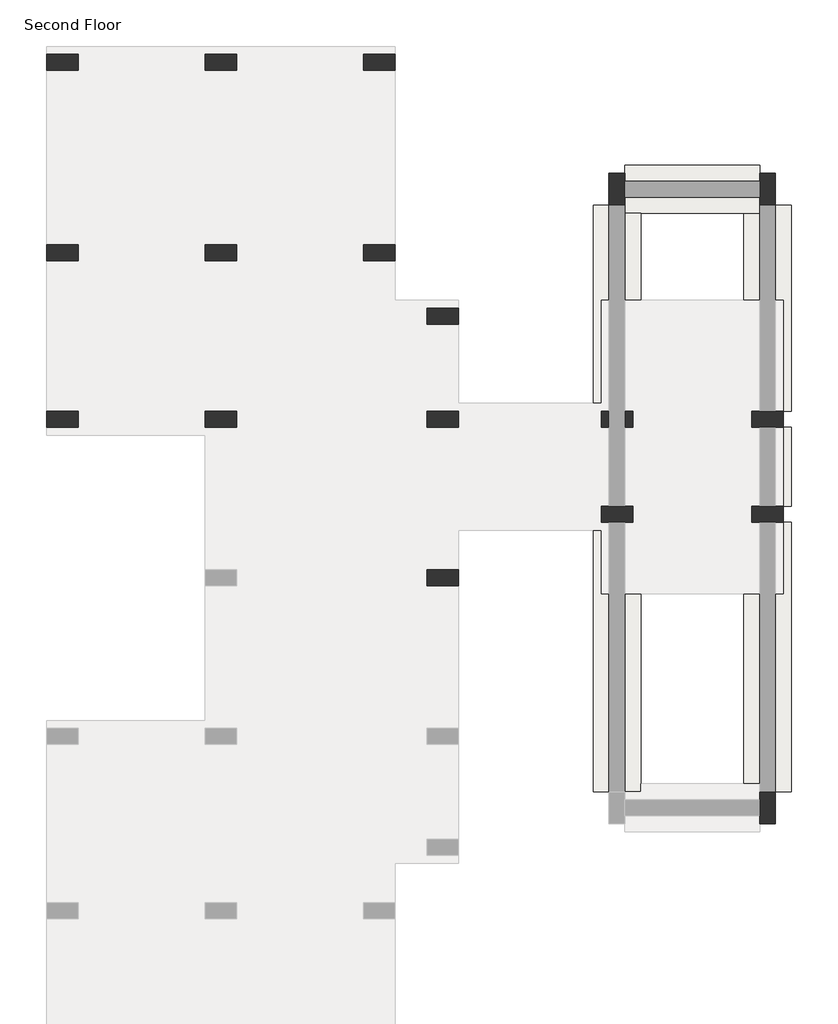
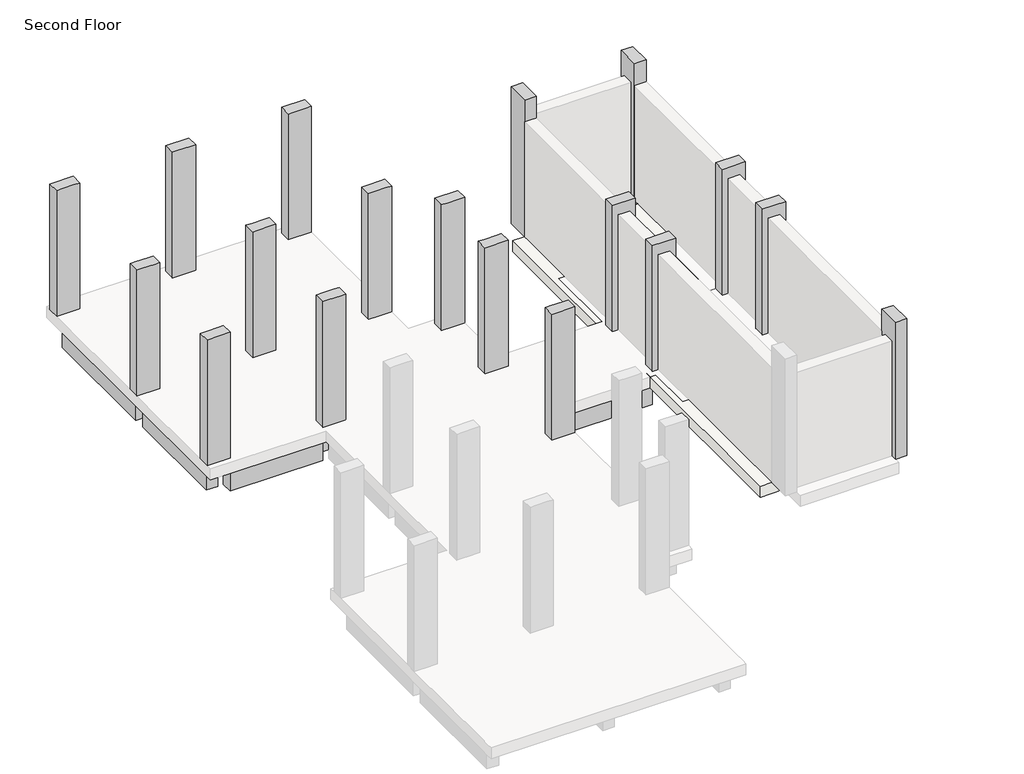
# One storey, part 2 of 2: 20 beams, 18 columns, 6 footings.
"""IFC4 building model written with IfcOpenShell, lengths in millimetres."""

from ifc_helpers import new_model, si_unit, frame, origin, place, context, project, spatial, polyline, outline, extrude, faceted_brep, element, save

model = new_model("IFC4")

# Units and contexts
model_context = context("Model", 3, world=origin())
ifc_project = project(units=[si_unit("LENGTHUNIT", "METRE", prefix="MILLI")], contexts=[model_context])

# Site, building, storey
site = spatial("IfcSite", under=ifc_project)
building = spatial("IfcBuilding", under=site)
storey = spatial("IfcBuildingStorey", under=building, Name="Second Floor", Elevation=3810.0)

# Beams
placement = place(None, origin())
element("IfcBeam", 1, ObjectType="Concrete-Rectangular Beam : 12 x 24", at=placement, inside=storey, context=model_context, shape_type="SweptSolid", body=[
    extrude(outline(polyline([(-12861.5073204, 23464.2572372), (-12861.5073204, 23769.0572372), (-10423.1073204, 23769.0572372), (-10423.1073204, 23464.2572372), (-12861.5073204, 23464.2572372)])), frame((0.0, 0.0, 2895.6), z_axis=(0.0, 0.0, 1.0), x_axis=(1.0, 0.0, 0.0)), (0.0, 0.0, 1.0), 609.6),
])
element("IfcBeam", 2, ObjectType="Concrete-Rectangular Beam : 12 x 24", at=placement, inside=storey, context=model_context, shape_type="SweptSolid", body=[
    extrude(outline(polyline([(-9813.5073204, 23464.2572372), (-9813.5073204, 23769.0572372), (-7375.1073204, 23769.0572372), (-7375.1073204, 23464.2572372), (-9813.5073204, 23464.2572372)])), frame((0.0, 0.0, 2895.6), z_axis=(0.0, 0.0, 1.0), x_axis=(1.0, 0.0, 0.0)), (0.0, 0.0, 1.0), 609.6),
])
element("IfcBeam", 3, ObjectType="Concrete-Rectangular Beam : 12 x 24", at=placement, inside=storey, context=model_context, shape_type="SweptSolid", body=[
    extrude(outline(polyline([(-7222.7073204, 23464.2572372), (-6917.9073204, 23464.2572372), (-6917.9073204, 20111.4572372), (-7222.7073204, 20111.4572372), (-7222.7073204, 23464.2572372)])), frame((0.0, 0.0, 2895.6), z_axis=(0.0, 0.0, 1.0), x_axis=(1.0, 0.0, 0.0)), (0.0, 0.0, 1.0), 609.6),
])
element("IfcBeam", 4, ObjectType="Concrete-Rectangular Beam : 12 x 24", at=placement, inside=storey, context=model_context, shape_type="SweptSolid", body=[
    extrude(outline(polyline([(-10270.7073204, 23464.2572372), (-9965.9073204, 23464.2572372), (-9965.9073204, 20111.4572372), (-10270.7073204, 20111.4572372), (-10270.7073204, 23464.2572372)])), frame((0.0, 0.0, 2895.6), z_axis=(0.0, 0.0, 1.0), x_axis=(1.0, 0.0, 0.0)), (0.0, 0.0, 1.0), 609.6),
])
element("IfcBeam", 5, ObjectType="Concrete-Rectangular Beam : 12 x 24", at=placement, inside=storey, context=model_context, shape_type="SweptSolid", body=[
    extrude(outline(polyline([(-13318.7073204, 23464.2572372), (-13013.9073204, 23464.2572372), (-13013.9073204, 20111.4572372), (-13318.7073204, 20111.4572372), (-13318.7073204, 23464.2572372)])), frame((0.0, 0.0, 2895.6), z_axis=(0.0, 0.0, 1.0), x_axis=(1.0, 0.0, 0.0)), (0.0, 0.0, 1.0), 609.6),
])
element("IfcBeam", 6, ObjectType="Concrete-Rectangular Beam : 12 x 24", at=placement, inside=storey, context=model_context, shape_type="SweptSolid", body=[
    extrude(outline(polyline([(-12861.5073204, 19806.6572372), (-12861.5073204, 20111.4572372), (-10423.1073204, 20111.4572372), (-10423.1073204, 19806.6572372), (-12861.5073204, 19806.6572372)])), frame((0.0, 0.0, 2895.6), z_axis=(0.0, 0.0, 1.0), x_axis=(1.0, 0.0, 0.0)), (0.0, 0.0, 1.0), 609.6),
])
element("IfcBeam", 7, ObjectType="Concrete-Rectangular Beam : 12 x 24", at=placement, inside=storey, context=model_context, shape_type="SweptSolid", body=[
    extrude(outline(polyline([(-9813.5073204, 19806.6572372), (-9813.5073204, 20111.4572372), (-7375.1073204, 20111.4572372), (-7375.1073204, 19806.6572372), (-9813.5073204, 19806.6572372)])), frame((0.0, 0.0, 2895.6), z_axis=(0.0, 0.0, 1.0), x_axis=(1.0, 0.0, 0.0)), (0.0, 0.0, 1.0), 609.6),
])
element("IfcBeam", 8, ObjectType="Concrete-Rectangular Beam : 12 x 24", at=placement, inside=storey, context=model_context, shape_type="SweptSolid", body=[
    extrude(outline(polyline([(-13318.7073204, 19806.6572372), (-13013.9073204, 19806.6572372), (-13013.9073204, 16911.0572372), (-13318.7073204, 16911.0572372), (-13318.7073204, 19806.6572372)])), frame((0.0, 0.0, 2895.6), z_axis=(0.0, 0.0, 1.0), x_axis=(1.0, 0.0, 0.0)), (0.0, 0.0, 1.0), 609.6),
])
element("IfcBeam", 9, ObjectType="Concrete-Rectangular Beam : 12 x 24", at=placement, inside=storey, context=model_context, shape_type="SweptSolid", body=[
    extrude(outline(polyline([(-10270.7073204, 19806.6572372), (-9965.9073204, 19806.6572372), (-9965.9073204, 16911.0572372), (-10270.7073204, 16911.0572372), (-10270.7073204, 19806.6572372)])), frame((0.0, 0.0, 2895.6), z_axis=(0.0, 0.0, 1.0), x_axis=(1.0, 0.0, 0.0)), (0.0, 0.0, 1.0), 609.6),
])
element("IfcBeam", 10, ObjectType="Concrete-Rectangular Beam : 12 x 24", at=placement, inside=storey, context=model_context, shape_type="Brep", body=[
    faceted_brep([(-6917.9073204, 19806.6572372, 3505.2), (-7222.7073204, 19806.6572372, 3505.2), (-7222.7073204, 18588.1999409, 3505.2), (-6917.9073204, 18588.1999409, 3505.2), (-6917.9073204, 18892.9999409, 3505.2), (-7222.7073204, 19806.6572372, 2895.6), (-7222.7073204, 18588.1999409, 2895.6), (-6917.9073204, 19806.6572372, 2895.6), (-6917.9073204, 18892.9999409, 2895.6), (-6917.9073204, 18588.1999409, 2895.6)], [[[0, 1, 2, 3, 4]], [[1, 5, 6, 2]], [[5, 7, 8, 9, 6]], [[3, 9, 8, 7, 0, 4]], [[0, 7, 5, 1]], [[3, 2, 6, 9]]]),
])
element("IfcBeam", 11, ObjectType="Concrete-Rectangular Beam : 12 x 24", at=placement, inside=storey, context=model_context, shape_type="SweptSolid", body=[
    extrude(outline(polyline([(-6917.9073204, 18588.1999409), (-6917.9073204, 18892.9999409), (-6156.6500241, 18892.9999409), (-6156.6500241, 18588.1999409), (-6917.9073204, 18588.1999409)])), frame((0.0, 0.0, 2895.6), z_axis=(0.0, 0.0, 1.0), x_axis=(1.0, 0.0, 0.0)), (0.0, 0.0, 1.0), 609.6),
])
element("IfcBeam", 12, ObjectType="Concrete-Rectangular Beam : 12 x 24", at=placement, inside=storey, context=model_context, shape_type="SweptSolid", body=[
    extrude(outline(polyline([(-6004.2500241, 18588.1999409), (-5699.4500241, 18588.1999409), (-5699.4500241, 16911.0572372), (-6004.2500241, 16911.0572372), (-6004.2500241, 18588.1999409)])), frame((0.0, 0.0, 2895.6), z_axis=(0.0, 0.0, 1.0), x_axis=(1.0, 0.0, 0.0)), (0.0, 0.0, 1.0), 609.6),
])
element("IfcBeam", 13, ObjectType="Concrete-Rectangular Beam : 12 x 24", at=placement, inside=storey, context=model_context, shape_type="SweptSolid", body=[
    extrude(outline(polyline([(-9813.5073204, 16606.2572372), (-9813.5073204, 16911.0572372), (-6156.6500241, 16911.0572372), (-6156.6500241, 16606.2572372), (-9813.5073204, 16606.2572372)])), frame((0.0, 0.0, 2895.6), z_axis=(0.0, 0.0, 1.0), x_axis=(1.0, 0.0, 0.0)), (0.0, 0.0, 1.0), 609.6),
])
element("IfcBeam", 14, ObjectType="Concrete-Rectangular Beam : 12 x 24", at=placement, inside=storey, context=model_context, shape_type="SweptSolid", body=[
    extrude(outline(polyline([(-12861.5073204, 16606.2572372), (-12861.5073204, 16911.0572372), (-10423.1073204, 16911.0572372), (-10423.1073204, 16606.2572372), (-12861.5073204, 16606.2572372)])), frame((0.0, 0.0, 2895.6), z_axis=(0.0, 0.0, 1.0), x_axis=(1.0, 0.0, 0.0)), (0.0, 0.0, 1.0), 609.6),
])
element("IfcBeam", 15, ObjectType="Concrete-Rectangular Beam : 12 x 24", at=placement, inside=storey, context=model_context, shape_type="SweptSolid", body=[
    extrude(outline(polyline([(-2803.8500241, 16911.0572372), (-2803.8500241, 16606.2572372), (-5547.0500241, 16606.2572372), (-5547.0500241, 16911.0572372), (-2803.8500241, 16911.0572372)])), frame((0.0, 0.0, 2895.6), z_axis=(0.0, 0.0, 1.0), x_axis=(1.0, 0.0, 0.0)), (0.0, 0.0, 1.0), 609.6),
])
element("IfcBeam", 16, ObjectType="Concrete-Rectangular Beam : 12 x 24", at=placement, inside=storey, context=model_context, shape_type="Brep", body=[
    faceted_brep([(-5699.4500241, 16606.2572372, 3505.2), (-6004.2500241, 16606.2572372, 3505.2), (-6004.2500241, 13863.0572372, 3505.2), (-5699.4500241, 13863.0572372, 3505.2), (-5699.4500241, 14777.4572372, 3505.2), (-5699.4500241, 15082.2572372, 3505.2), (-6004.2500241, 16606.2572372, 2895.6), (-6004.2500241, 13863.0572372, 2895.6), (-5699.4500241, 16606.2572372, 2895.6), (-5699.4500241, 15082.2572372, 2895.6), (-5699.4500241, 14777.4572372, 2895.6), (-5699.4500241, 13863.0572372, 2895.6)], [[[0, 1, 2, 3, 4, 5]], [[1, 6, 7, 2]], [[6, 8, 9, 10, 11, 7]], [[8, 0, 5, 4, 3, 11, 10, 9]], [[6, 1, 0, 8]], [[3, 2, 7, 11]]]),
])
element("IfcBeam", 17, ObjectType="Concrete-Rectangular Beam : 12 x 24", at=placement, inside=storey, context=model_context, shape_type="SweptSolid", body=[
    extrude(outline(polyline([(-2803.8500241, 15082.2572372), (-2803.8500241, 14777.4572372), (-5699.4500241, 14777.4572372), (-5699.4500241, 15082.2572372), (-2803.8500241, 15082.2572372)])), frame((0.0, 0.0, 2895.6), z_axis=(0.0, 0.0, 1.0), x_axis=(1.0, 0.0, 0.0)), (0.0, 0.0, 1.0), 609.6),
])
element("IfcBeam", 18, ObjectType="Concrete-Rectangular Beam : 12 x 24", at=placement, inside=storey, context=model_context, shape_type="SweptSolid", body=[
    extrude(outline(polyline([(-5699.4500241, 10815.0572372), (-6004.2500241, 10815.0572372), (-6004.2500241, 13558.2572372), (-5699.4500241, 13558.2572372), (-5699.4500241, 10815.0572372)])), frame((0.0, 0.0, 2895.6), z_axis=(0.0, 0.0, 1.0), x_axis=(1.0, 0.0, 0.0)), (0.0, 0.0, 1.0), 609.6),
])
element("IfcBeam", 19, ObjectType="Concrete-Rectangular Beam : 12 x 24", at=placement, inside=storey, context=model_context, shape_type="SweptSolid", body=[
    extrude(outline(polyline([(-2194.2500241, 16606.2572372), (-2194.2500241, 16911.0572372), (89.9860546, 16911.0572372), (89.9860546, 16606.2572372), (-2194.2500241, 16606.2572372)])), frame((0.0, 0.0, 2895.6), z_axis=(0.0, 0.0, 1.0), x_axis=(1.0, 0.0, 0.0)), (0.0, 0.0, 1.0), 609.6),
])
element("IfcBeam", 20, ObjectType="Concrete-Rectangular Beam : 12 x 24", at=placement, inside=storey, context=model_context, shape_type="SweptSolid", body=[
    extrude(outline(polyline([(89.9860546, 15082.2572372), (89.9860546, 14777.4572372), (-2194.2500241, 14777.4572372), (-2194.2500241, 15082.2572372), (89.9860546, 15082.2572372)])), frame((0.0, 0.0, 2895.6), z_axis=(0.0, 0.0, 1.0), x_axis=(1.0, 0.0, 0.0)), (0.0, 0.0, 1.0), 609.6),
])

# Columns
element("IfcColumn", 21, ObjectType="Concrete-Rectangular-Column : 12 x 24", at=placement, inside=storey, context=model_context, shape_type="Brep", body=[
    faceted_brep([(-13471.1073204, 23769.0572372, 3810.0), (-12861.5073204, 23769.0572372, 3810.0), (-12861.5073204, 23464.2572372, 3810.0), (-13471.1073204, 23464.2572372, 3810.0), (-13471.1073204, 23769.0572372, 7315.2), (-12861.5073204, 23769.0572372, 7315.2), (-12861.5073204, 23769.0572372, 6705.6), (-12861.5073204, 23464.2572372, 7315.2), (-12861.5073204, 23464.2572372, 6705.6), (-13013.9073204, 23464.2572372, 7315.2), (-13318.7073204, 23464.2572372, 7315.2), (-13471.1073204, 23464.2572372, 7315.2)], [[[0, 1, 2, 3]], [[4, 5, 6, 1, 0]], [[5, 7, 8, 2, 1, 6]], [[7, 9, 10, 11, 3, 2, 8]], [[11, 4, 0, 3]], [[4, 11, 10, 9, 7, 5]]]),
])
element("IfcColumn", 22, ObjectType="Concrete-Rectangular-Column : 12 x 24", at=placement, inside=storey, context=model_context, shape_type="Brep", body=[
    faceted_brep([(-10423.1073204, 23769.0572372, 3810.0), (-9813.5073204, 23769.0572372, 3810.0), (-9813.5073204, 23464.2572372, 3810.0), (-10423.1073204, 23464.2572372, 3810.0), (-10423.1073204, 23769.0572372, 7315.2), (-9813.5073204, 23769.0572372, 7315.2), (-9813.5073204, 23769.0572372, 6705.6), (-10423.1073204, 23769.0572372, 6705.6), (-9813.5073204, 23464.2572372, 7315.2), (-9813.5073204, 23464.2572372, 6705.6), (-9965.9073204, 23464.2572372, 7315.2), (-10270.7073204, 23464.2572372, 7315.2), (-10423.1073204, 23464.2572372, 7315.2), (-10423.1073204, 23464.2572372, 6705.6)], [[[0, 1, 2, 3]], [[4, 5, 6, 1, 0, 7]], [[5, 8, 9, 2, 1, 6]], [[8, 10, 11, 12, 13, 3, 2, 9]], [[12, 4, 7, 0, 3, 13]], [[4, 12, 11, 10, 8, 5]]]),
])
element("IfcColumn", 23, ObjectType="Concrete-Rectangular-Column : 12 x 24", at=placement, inside=storey, context=model_context, shape_type="Brep", body=[
    faceted_brep([(-7375.1073204, 23769.0572372, 3810.0), (-6765.5073204, 23769.0572372, 3810.0), (-6765.5073204, 23464.2572372, 3810.0), (-7375.1073204, 23464.2572372, 3810.0), (-7375.1073204, 23769.0572372, 7315.2), (-6765.5073204, 23769.0572372, 7315.2), (-7375.1073204, 23769.0572372, 6705.6), (-6765.5073204, 23464.2572372, 7315.2), (-6917.9073204, 23464.2572372, 7315.2), (-7222.7073204, 23464.2572372, 7315.2), (-7375.1073204, 23464.2572372, 7315.2), (-7375.1073204, 23464.2572372, 6705.6)], [[[0, 1, 2, 3]], [[4, 5, 1, 0, 6]], [[5, 7, 2, 1]], [[7, 8, 9, 10, 11, 3, 2]], [[10, 4, 6, 0, 3, 11]], [[4, 10, 9, 8, 7, 5]]]),
])
element("IfcColumn", 24, ObjectType="Concrete-Rectangular-Column : 12 x 24", at=placement, inside=storey, context=model_context, shape_type="Brep", body=[
    faceted_brep([(-13471.1073204, 20111.4572372, 3810.0), (-12861.5073204, 20111.4572372, 3810.0), (-12861.5073204, 19806.6572372, 3810.0), (-13471.1073204, 19806.6572372, 3810.0), (-13471.1073204, 20111.4572372, 7315.2), (-13318.7073204, 20111.4572372, 7315.2), (-13013.9073204, 20111.4572372, 7315.2), (-12861.5073204, 20111.4572372, 7315.2), (-12861.5073204, 20111.4572372, 6705.6), (-12861.5073204, 19806.6572372, 7315.2), (-12861.5073204, 19806.6572372, 6705.6), (-13013.9073204, 19806.6572372, 7315.2), (-13318.7073204, 19806.6572372, 7315.2), (-13471.1073204, 19806.6572372, 7315.2)], [[[0, 1, 2, 3]], [[4, 5, 6, 7, 8, 1, 0]], [[7, 9, 10, 2, 1, 8]], [[9, 11, 12, 13, 3, 2, 10]], [[13, 4, 0, 3]], [[4, 13, 12, 11, 9, 7, 6, 5]]]),
])
element("IfcColumn", 25, ObjectType="Concrete-Rectangular-Column : 12 x 24", at=placement, inside=storey, context=model_context, shape_type="Brep", body=[
    faceted_brep([(-10423.1073204, 20111.4572372, 3810.0), (-9813.5073204, 20111.4572372, 3810.0), (-9813.5073204, 19806.6572372, 3810.0), (-10423.1073204, 19806.6572372, 3810.0), (-10423.1073204, 20111.4572372, 7315.2), (-10270.7073204, 20111.4572372, 7315.2), (-9965.9073204, 20111.4572372, 7315.2), (-9813.5073204, 20111.4572372, 7315.2), (-9813.5073204, 20111.4572372, 6705.6), (-10423.1073204, 20111.4572372, 6705.6), (-9813.5073204, 19806.6572372, 7315.2), (-9813.5073204, 19806.6572372, 6705.6), (-9965.9073204, 19806.6572372, 7315.2), (-10270.7073204, 19806.6572372, 7315.2), (-10423.1073204, 19806.6572372, 7315.2), (-10423.1073204, 19806.6572372, 6705.6)], [[[0, 1, 2, 3]], [[4, 5, 6, 7, 8, 1, 0, 9]], [[7, 10, 11, 2, 1, 8]], [[10, 12, 13, 14, 15, 3, 2, 11]], [[14, 4, 9, 0, 3, 15]], [[4, 14, 13, 12, 10, 7, 6, 5]]]),
])
element("IfcColumn", 26, ObjectType="Concrete-Rectangular-Column : 12 x 24", at=placement, inside=storey, context=model_context, shape_type="Brep", body=[
    faceted_brep([(-7375.1073204, 20111.4572372, 3810.0), (-6765.5073204, 20111.4572372, 3810.0), (-6765.5073204, 19806.6572372, 3810.0), (-7375.1073204, 19806.6572372, 3810.0), (-7375.1073204, 20111.4572372, 7315.2), (-7222.7073204, 20111.4572372, 7315.2), (-6917.9073204, 20111.4572372, 7315.2), (-6765.5073204, 20111.4572372, 7315.2), (-7375.1073204, 20111.4572372, 6705.6), (-6765.5073204, 19806.6572372, 7315.2), (-6917.9073204, 19806.6572372, 7315.2), (-7222.7073204, 19806.6572372, 7315.2), (-7375.1073204, 19806.6572372, 7315.2), (-7375.1073204, 19806.6572372, 6705.6)], [[[0, 1, 2, 3]], [[4, 5, 6, 7, 1, 0, 8]], [[7, 9, 2, 1]], [[9, 10, 11, 12, 13, 3, 2]], [[12, 4, 8, 0, 3, 13]], [[4, 12, 11, 10, 9, 7, 6, 5]]]),
])
element("IfcColumn", 27, ObjectType="Concrete-Rectangular-Column : 12 x 24", at=placement, inside=storey, context=model_context, shape_type="Brep", body=[
    faceted_brep([(-6156.6500241, 18892.9999409, 3810.0), (-5547.0500241, 18892.9999409, 3810.0), (-5547.0500241, 18588.1999409, 3810.0), (-6156.6500241, 18588.1999409, 3810.0), (-6156.6500241, 18892.9999409, 7315.2), (-5547.0500241, 18892.9999409, 7315.2), (-6156.6500241, 18892.9999409, 6705.6), (-5547.0500241, 18588.1999409, 7315.2), (-5699.4500241, 18588.1999409, 7315.2), (-6004.2500241, 18588.1999409, 7315.2), (-6156.6500241, 18588.1999409, 7315.2), (-6156.6500241, 18588.1999409, 6705.6)], [[[0, 1, 2, 3]], [[4, 5, 1, 0, 6]], [[5, 7, 2, 1]], [[7, 8, 9, 10, 11, 3, 2]], [[10, 4, 6, 0, 3, 11]], [[4, 10, 9, 8, 7, 5]]]),
])
element("IfcColumn", 28, ObjectType="Concrete-Rectangular-Column : 12 x 24", at=placement, inside=storey, context=model_context, shape_type="Brep", body=[
    faceted_brep([(-13471.1073204, 16911.0572372, 3810.0), (-12861.5073204, 16911.0572372, 3810.0), (-12861.5073204, 16606.2572372, 3810.0), (-13471.1073204, 16606.2572372, 3810.0), (-13471.1073204, 16911.0572372, 7315.2), (-13318.7073204, 16911.0572372, 7315.2), (-13013.9073204, 16911.0572372, 7315.2), (-12861.5073204, 16911.0572372, 7315.2), (-12861.5073204, 16911.0572372, 6705.6), (-12861.5073204, 16606.2572372, 7315.2), (-12861.5073204, 16606.2572372, 6705.6), (-13471.1073204, 16606.2572372, 7315.2)], [[[0, 1, 2, 3]], [[4, 5, 6, 7, 8, 1, 0]], [[7, 9, 10, 2, 1, 8]], [[9, 11, 3, 2, 10]], [[11, 4, 0, 3]], [[4, 11, 9, 7, 6, 5]]]),
])
element("IfcColumn", 29, ObjectType="Concrete-Rectangular-Column : 12 x 24", at=placement, inside=storey, context=model_context, shape_type="Brep", body=[
    faceted_brep([(-10423.1073204, 16911.0572372, 3810.0), (-9813.5073204, 16911.0572372, 3810.0), (-9813.5073204, 16606.2572372, 3810.0), (-10423.1073204, 16606.2572372, 3810.0), (-10423.1073204, 16911.0572372, 7315.2), (-10270.7073204, 16911.0572372, 7315.2), (-9965.9073204, 16911.0572372, 7315.2), (-9813.5073204, 16911.0572372, 7315.2), (-9813.5073204, 16911.0572372, 6705.6), (-10423.1073204, 16911.0572372, 6705.6), (-9813.5073204, 16606.2572372, 7315.2), (-9813.5073204, 16606.2572372, 6705.6), (-9965.9073204, 16606.2572372, 7315.2), (-10270.7073204, 16606.2572372, 7315.2), (-10423.1073204, 16606.2572372, 7315.2), (-10423.1073204, 16606.2572372, 6705.6)], [[[0, 1, 2, 3]], [[4, 5, 6, 7, 8, 1, 0, 9]], [[7, 10, 11, 2, 1, 8]], [[10, 12, 13, 14, 15, 3, 2, 11]], [[14, 4, 9, 0, 3, 15]], [[4, 14, 13, 12, 10, 7, 6, 5]]]),
])
element("IfcColumn", 30, ObjectType="Concrete-Rectangular-Column : 12 x 24", at=placement, inside=storey, context=model_context, shape_type="Brep", body=[
    faceted_brep([(-6156.6500241, 16911.0572372, 3810.0), (-5547.0500241, 16911.0572372, 3810.0), (-5547.0500241, 16606.2572372, 3810.0), (-6156.6500241, 16606.2572372, 3810.0), (-6156.6500241, 16911.0572372, 7315.2), (-6004.2500241, 16911.0572372, 7315.2), (-5699.4500241, 16911.0572372, 7315.2), (-5547.0500241, 16911.0572372, 7315.2), (-5547.0500241, 16911.0572372, 6705.6), (-6156.6500241, 16911.0572372, 6705.6), (-5547.0500241, 16606.2572372, 7315.2), (-5547.0500241, 16606.2572372, 6705.6), (-5699.4500241, 16606.2572372, 7315.2), (-6004.2500241, 16606.2572372, 7315.2), (-6156.6500241, 16606.2572372, 7315.2), (-6156.6500241, 16606.2572372, 6705.6)], [[[0, 1, 2, 3]], [[4, 5, 6, 7, 8, 1, 0, 9]], [[7, 10, 11, 2, 1, 8]], [[10, 12, 13, 14, 15, 3, 2, 11]], [[14, 4, 9, 0, 3, 15]], [[4, 14, 13, 12, 10, 7, 6, 5]]]),
])
element("IfcColumn", 31, ObjectType="Concrete-Rectangular-Column : 12 x 24", at=placement, inside=storey, context=model_context, shape_type="SweptSolid", body=[
    extrude(outline(polyline([(3810.0, -2346.6500241), (3810.0, -2194.2500241), (7315.2, -2194.2500241), (7315.2, -2803.8500241), (3810.0, -2803.8500241), (3810.0, -2651.4500241), (7010.4, -2651.4500241), (7010.4, -2346.6500241), (3810.0, -2346.6500241)])), frame((0.0, 16606.2572372, 0.0), z_axis=(0.0, 1.0, 0.0), x_axis=(0.0, 0.0, 1.0)), (0.0, 0.0, 1.0), 304.8),
])
element("IfcColumn", 32, ObjectType="Concrete-Rectangular-Column : 12 x 24", at=placement, inside=storey, context=model_context, shape_type="Brep", body=[
    faceted_brep([(89.9860546, 16911.0572372, 3810.0), (242.3860546, 16911.0572372, 3810.0), (547.1860546, 16911.0572372, 3810.0), (699.5860546, 16911.0572372, 3810.0), (699.5860546, 16606.2572372, 3810.0), (547.1860546, 16606.2572372, 3810.0), (242.3860546, 16606.2572372, 3810.0), (89.9860546, 16606.2572372, 3810.0), (89.9860546, 16911.0572372, 7315.2), (699.5860546, 16911.0572372, 7315.2), (699.5860546, 16606.2572372, 7315.2), (89.9860546, 16606.2572372, 7315.2)], [[[0, 1, 2, 3, 4, 5, 6, 7]], [[3, 2, 1, 0, 8, 9]], [[4, 3, 9, 10]], [[7, 6, 5, 4, 10, 11]], [[0, 7, 11, 8]], [[9, 8, 11, 10]]]),
])
element("IfcColumn", 33, ObjectType="Concrete-Rectangular-Column : 12 x 24", at=placement, inside=storey, context=model_context, shape_type="Brep", body=[
    faceted_brep([(89.9860546, 15082.2572372, 3810.0), (242.3860546, 15082.2572372, 3810.0), (547.1860546, 15082.2572372, 3810.0), (699.5860546, 15082.2572372, 3810.0), (699.5860546, 14777.4572372, 3810.0), (547.1860546, 14777.4572372, 3810.0), (242.3860546, 14777.4572372, 3810.0), (89.9860546, 14777.4572372, 3810.0), (89.9860546, 15082.2572372, 7315.2), (699.5860546, 15082.2572372, 7315.2), (699.5860546, 14777.4572372, 7315.2), (89.9860546, 14777.4572372, 7315.2)], [[[0, 1, 2, 3, 4, 5, 6, 7]], [[3, 2, 1, 0, 8, 9]], [[4, 3, 9, 10]], [[7, 6, 5, 4, 10, 11]], [[0, 7, 11, 8]], [[9, 8, 11, 10]]]),
])
element("IfcColumn", 34, ObjectType="Concrete-Rectangular-Column : 12 x 24", at=placement, inside=storey, context=model_context, shape_type="Brep", body=[
    faceted_brep([(-2803.8500241, 15082.2572372, 3810.0), (-2651.4500241, 15082.2572372, 3810.0), (-2346.6500241, 15082.2572372, 3810.0), (-2194.2500241, 15082.2572372, 3810.0), (-2194.2500241, 14777.4572372, 3810.0), (-2346.6500241, 14777.4572372, 3810.0), (-2651.4500241, 14777.4572372, 3810.0), (-2803.8500241, 14777.4572372, 3810.0), (-2803.8500241, 15082.2572372, 7315.2), (-2194.2500241, 15082.2572372, 7315.2), (-2194.2500241, 14777.4572372, 7315.2), (-2803.8500241, 14777.4572372, 7315.2)], [[[0, 1, 2, 3, 4, 5, 6, 7]], [[3, 2, 1, 0, 8, 9]], [[4, 3, 9, 10]], [[7, 6, 5, 4, 10, 11]], [[0, 7, 11, 8]], [[9, 8, 11, 10]]]),
])
element("IfcColumn", 35, ObjectType="Concrete-Rectangular-Column : 12 x 24", at=placement, inside=storey, context=model_context, shape_type="Brep", body=[
    faceted_brep([(-6156.6500241, 13863.0572372, 3810.0), (-5547.0500241, 13863.0572372, 3810.0), (-5547.0500241, 13558.2572372, 3810.0), (-6156.6500241, 13558.2572372, 3810.0), (-6156.6500241, 13863.0572372, 7315.2), (-6004.2500241, 13863.0572372, 7315.2), (-5699.4500241, 13863.0572372, 7315.2), (-5547.0500241, 13863.0572372, 7315.2), (-6156.6500241, 13863.0572372, 6705.6), (-5547.0500241, 13558.2572372, 7315.2), (-5699.4500241, 13558.2572372, 7315.2), (-6004.2500241, 13558.2572372, 7315.2), (-6156.6500241, 13558.2572372, 7315.2), (-6156.6500241, 13558.2572372, 6705.6)], [[[0, 1, 2, 3]], [[4, 5, 6, 7, 1, 0, 8]], [[7, 9, 2, 1]], [[9, 10, 11, 12, 13, 3, 2]], [[12, 4, 8, 0, 3, 13]], [[4, 12, 11, 10, 9, 7, 6, 5]]]),
])
element("IfcColumn", 36, ObjectType="Concrete-Rectangular-Column : 12 x 24", at=placement, inside=storey, context=model_context, shape_type="Brep", body=[
    faceted_brep([(-2346.6500241, 21483.0572372, 3810.0), (-2346.6500241, 21330.6572372, 3810.0), (-2346.6500241, 21025.8572372, 3810.0), (-2346.6500241, 20873.4572372, 3810.0), (-2651.4500241, 20873.4572372, 3810.0), (-2651.4500241, 21483.0572372, 3810.0), (-2346.6500241, 21483.0572372, 7620.0), (-2346.6500241, 20873.4572372, 7620.0), (-2346.6500241, 20873.4572372, 7010.4), (-2651.4500241, 20873.4572372, 7620.0), (-2651.4500241, 20873.4572372, 7010.4), (-2651.4500241, 21483.0572372, 7620.0)], [[[0, 1, 2, 3, 4, 5]], [[6, 7, 8, 3, 2, 1, 0]], [[7, 9, 10, 4, 3, 8]], [[9, 11, 5, 4, 10]], [[11, 6, 0, 5]], [[6, 11, 9, 7]]]),
])
element("IfcColumn", 37, ObjectType="Concrete-Rectangular-Column : 12 x 24", at=placement, inside=storey, context=model_context, shape_type="Brep", body=[
    faceted_brep([(547.1860546, 21483.0572372, 3810.0), (547.1860546, 20873.4572372, 3810.0), (242.3860546, 20873.4572372, 3810.0), (242.3860546, 21025.8572372, 3810.0), (242.3860546, 21330.6572372, 3810.0), (242.3860546, 21483.0572372, 3810.0), (547.1860546, 21483.0572372, 7620.0), (547.1860546, 20873.4572372, 7620.0), (547.1860546, 20873.4572372, 7010.4), (242.3860546, 20873.4572372, 7620.0), (242.3860546, 20873.4572372, 7010.4), (242.3860546, 21483.0572372, 7620.0)], [[[0, 1, 2, 3, 4, 5]], [[6, 7, 8, 1, 0]], [[7, 9, 10, 2, 1, 8]], [[9, 11, 5, 4, 3, 2, 10]], [[11, 6, 0, 5]], [[6, 11, 9, 7]]]),
])
element("IfcColumn", 38, ObjectType="Concrete-Rectangular-Column : 12 x 24", at=placement, inside=storey, context=model_context, shape_type="Brep", body=[
    faceted_brep([(547.1860546, 9595.8572372, 3810.0), (547.1860546, 8986.2572372, 3810.0), (242.3860546, 8986.2572372, 3810.0), (242.3860546, 9138.6572372, 3810.0), (242.3860546, 9443.4572372, 3810.0), (242.3860546, 9595.8572372, 3810.0), (547.1860546, 9595.8572372, 7620.0), (547.1860546, 8986.2572372, 7620.0), (547.1860546, 9595.8572372, 7010.4), (242.3860546, 8986.2572372, 7620.0), (242.3860546, 9595.8572372, 7620.0), (242.3860546, 9595.8572372, 7010.4)], [[[0, 1, 2, 3, 4, 5]], [[6, 7, 1, 0, 8]], [[7, 9, 2, 1]], [[9, 10, 11, 5, 4, 3, 2]], [[10, 6, 8, 0, 5, 11]], [[6, 10, 9, 7]]]),
])

# Footings
element("IfcFooting", 39, ObjectType="Bearing Footing - 36\" x 12\"", at=placement, inside=storey, context=model_context, shape_type="Brep", body=[
    faceted_brep([(-2346.6500241, 20721.0572372, 3810.0), (-2346.6500241, 20873.4572372, 3810.0), (-2346.6500241, 21635.4572372, 3810.0), (-2346.6500241, 21635.4572372, 3505.2), (-2346.6500241, 20873.4572372, 3505.2), (-2346.6500241, 20721.0572372, 3505.2), (242.3860546, 21635.4572372, 3810.0), (242.3860546, 20873.4572372, 3810.0), (242.3860546, 20721.0572372, 3810.0), (242.3860546, 20721.0572372, 3505.2), (242.3860546, 20873.4572372, 3505.2), (242.3860546, 21635.4572372, 3505.2), (-2041.8500241, 20721.0572372, 3810.0), (-62.4139454, 20721.0572372, 3810.0), (-62.4139454, 20721.0572372, 3505.2), (-2041.8500241, 20721.0572372, 3505.2)], [[[0, 1, 2, 3, 4, 5]], [[6, 7, 8, 9, 10, 11]], [[0, 12, 13, 8, 7, 6, 2, 1]], [[3, 2, 6, 11]], [[5, 4, 3, 11, 10, 9, 14, 15]], [[0, 5, 15, 14, 9, 8, 13, 12]]]),
])
element("IfcFooting", 40, ObjectType="Bearing Footing - 36\" x 12\"", at=placement, inside=storey, context=model_context, shape_type="SweptSolid", body=[
    extrude(outline(polyline([(-2041.8500241, 15082.2572372), (-2956.2500241, 15082.2572372), (-2956.2500241, 20873.4572372), (-2346.6500241, 20873.4572372), (-2346.6500241, 20721.0572372), (-2041.8500241, 20721.0572372), (-2041.8500241, 15082.2572372)])), frame((0.0, 0.0, 3505.2), z_axis=(0.0, 0.0, 1.0), x_axis=(1.0, 0.0, 0.0)), (0.0, 0.0, 1.0), 304.8),
])
element("IfcFooting", 41, ObjectType="Bearing Footing - 36\" x 12\"", at=placement, inside=storey, context=model_context, shape_type="Brep", body=[
    faceted_brep([(-2041.8500241, 9595.8572372, 3810.0), (-2346.6500241, 9595.8572372, 3810.0), (-2956.2500241, 9595.8572372, 3810.0), (-2956.2500241, 9595.8572372, 3505.2), (-2346.6500241, 9595.8572372, 3505.2), (-2041.8500241, 9595.8572372, 3505.2), (-2956.2500241, 14777.4572372, 3810.0), (-2041.8500241, 14777.4572372, 3810.0), (-2041.8500241, 14777.4572372, 3505.2), (-2956.2500241, 14777.4572372, 3505.2), (-2041.8500241, 9748.2572372, 3810.0), (-2041.8500241, 9748.2572372, 3505.2)], [[[0, 1, 2, 3, 4, 5]], [[6, 7, 8, 9]], [[0, 10, 7, 6, 2, 1]], [[3, 2, 6, 9]], [[5, 4, 3, 9, 8, 11]], [[0, 5, 11, 8, 7, 10]]]),
])
element("IfcFooting", 42, ObjectType="Bearing Footing - 36\" x 12\"", at=placement, inside=storey, context=model_context, shape_type="SweptSolid", body=[
    extrude(outline(polyline([(-62.4139454, 14777.4572372), (851.9860546, 14777.4572372), (851.9860546, 9595.8572372), (242.3860546, 9595.8572372), (242.3860546, 9748.2572372), (-62.4139454, 9748.2572372), (-62.4139454, 14777.4572372)])), frame((0.0, 0.0, 3505.2), z_axis=(0.0, 0.0, 1.0), x_axis=(1.0, 0.0, 0.0)), (0.0, 0.0, 1.0), 304.8),
])
element("IfcFooting", 43, ObjectType="Bearing Footing - 36\" x 12\"", at=placement, inside=storey, context=model_context, shape_type="SweptSolid", body=[
    extrude(outline(polyline([(851.9860546, 16911.0572372), (-62.4139454, 16911.0572372), (-62.4139454, 20721.0572372), (242.3860546, 20721.0572372), (242.3860546, 20873.4572372), (851.9860546, 20873.4572372), (851.9860546, 16911.0572372)])), frame((0.0, 0.0, 3505.2), z_axis=(0.0, 0.0, 1.0), x_axis=(1.0, 0.0, 0.0)), (0.0, 0.0, 1.0), 304.8),
])
element("IfcFooting", 44, ObjectType="Bearing Footing - 36\" x 12\"", at=placement, inside=storey, context=model_context, shape_type="SweptSolid", body=[
    extrude(outline(polyline([(-62.4139454, 16606.2572372), (851.9860546, 16606.2572372), (851.9860546, 15082.2572372), (-62.4139454, 15082.2572372), (-62.4139454, 16606.2572372)])), frame((0.0, 0.0, 3505.2), z_axis=(0.0, 0.0, 1.0), x_axis=(1.0, 0.0, 0.0)), (0.0, 0.0, 1.0), 304.8),
])

save(model, "model.ifc")
